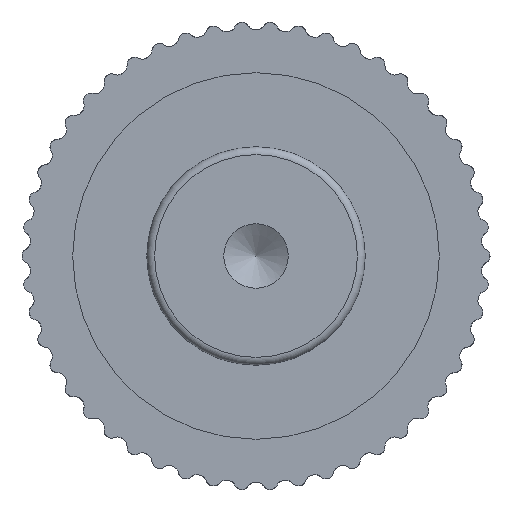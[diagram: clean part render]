
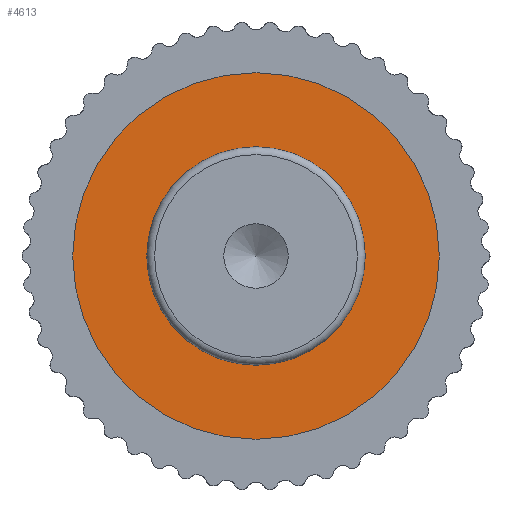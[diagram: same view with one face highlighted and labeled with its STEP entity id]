
A CAD part, front view. The second image highlights one B-rep face of the part: STEP entity #4613.
In plain terms, the highlighted planar face has unit normal (0, -1, 0).
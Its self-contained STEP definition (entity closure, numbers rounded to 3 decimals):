
#619=PLANE('',#5193);
#635=FACE_BOUND('',#1379,.T.);
#1102=FACE_OUTER_BOUND('',#1378,.T.);
#1378=EDGE_LOOP('',(#4094));
#1379=EDGE_LOOP('',(#4095));
#1387=CIRCLE('',#4627,7.);
#1695=CIRCLE('',#5192,11.75);
#1700=VERTEX_POINT('',#6568);
#2158=VERTEX_POINT('',#9791);
#2163=EDGE_CURVE('',#1700,#1700,#1387,.T.);
#2871=EDGE_CURVE('',#2158,#2158,#1695,.T.);
#4094=ORIENTED_EDGE('',*,*,#2871,.F.);
#4095=ORIENTED_EDGE('',*,*,#2163,.T.);
#4613=ADVANCED_FACE('',(#1102,#635),#619,.F.);
#4627=AXIS2_PLACEMENT_3D('',#6569,#5216,#5217);
#5192=AXIS2_PLACEMENT_3D('',#9792,#6546,#6547);
#5193=AXIS2_PLACEMENT_3D('',#9793,#6548,#6549);
#5216=DIRECTION('center_axis',(0.,1.,0.));
#5217=DIRECTION('ref_axis',(1.,0.,0.));
#6546=DIRECTION('center_axis',(0.,1.,0.));
#6547=DIRECTION('ref_axis',(1.,0.,0.));
#6548=DIRECTION('center_axis',(0.,1.,0.));
#6549=DIRECTION('ref_axis',(0.,0.,1.));
#6568=CARTESIAN_POINT('',(-7.,19.,0.));
#6569=CARTESIAN_POINT('Origin',(0.,19.,0.));
#9791=CARTESIAN_POINT('',(-11.75,19.,0.));
#9792=CARTESIAN_POINT('Origin',(0.,19.,0.));
#9793=CARTESIAN_POINT('Origin',(-7.,19.,0.));
